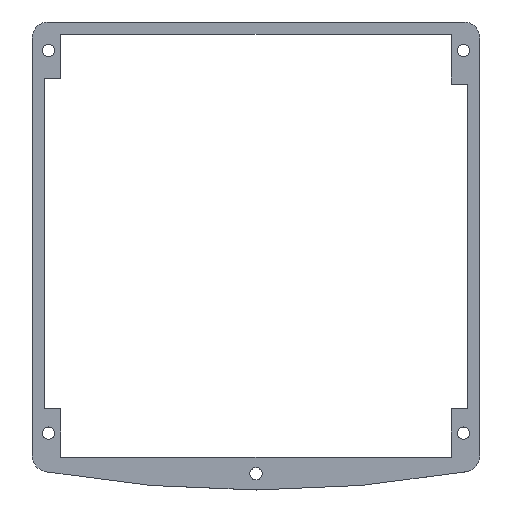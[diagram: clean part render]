
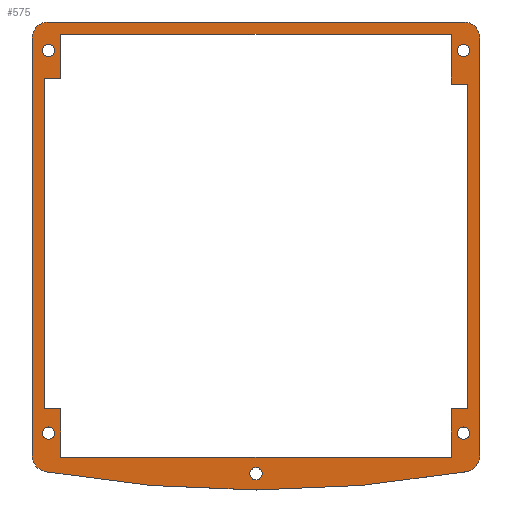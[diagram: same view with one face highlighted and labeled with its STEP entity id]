
A CAD part, top view. The second image highlights one B-rep face of the part: STEP entity #575.
In plain terms, the highlighted planar face has unit normal (0, 0, 1).
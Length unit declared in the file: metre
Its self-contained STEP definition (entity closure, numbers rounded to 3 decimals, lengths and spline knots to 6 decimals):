
#12=CIRCLE('',#602,0.004);
#14=CIRCLE('',#606,0.3);
#16=CIRCLE('',#610,0.004);
#18=CIRCLE('',#614,0.004);
#20=CIRCLE('',#618,0.004);
#23=CIRCLE('',#622,0.0015);
#25=CIRCLE('',#625,0.0015);
#27=CIRCLE('',#628,0.0015);
#29=CIRCLE('',#631,0.0015);
#31=CIRCLE('',#634,0.0015);
#167=ORIENTED_EDGE('',*,*,#267,.F.);
#168=ORIENTED_EDGE('',*,*,#265,.F.);
#169=ORIENTED_EDGE('',*,*,#263,.F.);
#170=ORIENTED_EDGE('',*,*,#261,.F.);
#171=ORIENTED_EDGE('',*,*,#259,.F.);
#172=ORIENTED_EDGE('',*,*,#228,.T.);
#173=ORIENTED_EDGE('',*,*,#232,.T.);
#174=ORIENTED_EDGE('',*,*,#235,.T.);
#175=ORIENTED_EDGE('',*,*,#238,.F.);
#176=ORIENTED_EDGE('',*,*,#241,.T.);
#177=ORIENTED_EDGE('',*,*,#244,.F.);
#178=ORIENTED_EDGE('',*,*,#247,.T.);
#179=ORIENTED_EDGE('',*,*,#250,.F.);
#180=ORIENTED_EDGE('',*,*,#253,.F.);
#181=ORIENTED_EDGE('',*,*,#256,.T.);
#182=ORIENTED_EDGE('',*,*,#194,.T.);
#183=ORIENTED_EDGE('',*,*,#198,.T.);
#184=ORIENTED_EDGE('',*,*,#201,.F.);
#185=ORIENTED_EDGE('',*,*,#204,.T.);
#186=ORIENTED_EDGE('',*,*,#207,.T.);
#187=ORIENTED_EDGE('',*,*,#210,.F.);
#188=ORIENTED_EDGE('',*,*,#213,.T.);
#189=ORIENTED_EDGE('',*,*,#216,.F.);
#190=ORIENTED_EDGE('',*,*,#219,.F.);
#191=ORIENTED_EDGE('',*,*,#222,.T.);
#192=ORIENTED_EDGE('',*,*,#225,.F.);
#193=ORIENTED_EDGE('',*,*,#268,.T.);
#194=EDGE_CURVE('',#270,#271,#324,.T.);
#198=EDGE_CURVE('',#271,#274,#328,.T.);
#201=EDGE_CURVE('',#276,#274,#331,.T.);
#204=EDGE_CURVE('',#276,#278,#334,.T.);
#207=EDGE_CURVE('',#278,#280,#337,.T.);
#210=EDGE_CURVE('',#282,#280,#340,.T.);
#213=EDGE_CURVE('',#282,#284,#343,.T.);
#216=EDGE_CURVE('',#286,#284,#346,.T.);
#219=EDGE_CURVE('',#288,#286,#349,.T.);
#222=EDGE_CURVE('',#288,#290,#352,.T.);
#225=EDGE_CURVE('',#292,#290,#355,.T.);
#228=EDGE_CURVE('',#294,#295,#358,.T.);
#232=EDGE_CURVE('',#295,#298,#12,.T.);
#235=EDGE_CURVE('',#298,#300,#363,.T.);
#238=EDGE_CURVE('',#302,#300,#14,.T.);
#241=EDGE_CURVE('',#302,#304,#367,.T.);
#244=EDGE_CURVE('',#306,#304,#16,.T.);
#247=EDGE_CURVE('',#306,#308,#371,.T.);
#250=EDGE_CURVE('',#310,#308,#18,.T.);
#253=EDGE_CURVE('',#312,#310,#375,.T.);
#256=EDGE_CURVE('',#312,#294,#20,.T.);
#259=EDGE_CURVE('',#315,#315,#23,.T.);
#261=EDGE_CURVE('',#317,#317,#25,.T.);
#263=EDGE_CURVE('',#319,#319,#27,.T.);
#265=EDGE_CURVE('',#321,#321,#29,.T.);
#267=EDGE_CURVE('',#323,#323,#31,.T.);
#268=EDGE_CURVE('',#292,#270,#378,.T.);
#270=VERTEX_POINT('',#797);
#271=VERTEX_POINT('',#798);
#274=VERTEX_POINT('',#806);
#276=VERTEX_POINT('',#812);
#278=VERTEX_POINT('',#818);
#280=VERTEX_POINT('',#824);
#282=VERTEX_POINT('',#830);
#284=VERTEX_POINT('',#836);
#286=VERTEX_POINT('',#842);
#288=VERTEX_POINT('',#848);
#290=VERTEX_POINT('',#854);
#292=VERTEX_POINT('',#860);
#294=VERTEX_POINT('',#866);
#295=VERTEX_POINT('',#867);
#298=VERTEX_POINT('',#875);
#300=VERTEX_POINT('',#881);
#302=VERTEX_POINT('',#887);
#304=VERTEX_POINT('',#893);
#306=VERTEX_POINT('',#899);
#308=VERTEX_POINT('',#905);
#310=VERTEX_POINT('',#911);
#312=VERTEX_POINT('',#917);
#315=VERTEX_POINT('',#928);
#317=VERTEX_POINT('',#933);
#319=VERTEX_POINT('',#938);
#321=VERTEX_POINT('',#943);
#323=VERTEX_POINT('',#948);
#324=LINE('',#796,#380);
#328=LINE('',#805,#384);
#331=LINE('',#811,#387);
#334=LINE('',#817,#390);
#337=LINE('',#823,#393);
#340=LINE('',#829,#396);
#343=LINE('',#835,#399);
#346=LINE('',#841,#402);
#349=LINE('',#847,#405);
#352=LINE('',#853,#408);
#355=LINE('',#859,#411);
#358=LINE('',#865,#414);
#363=LINE('',#880,#419);
#367=LINE('',#892,#423);
#371=LINE('',#904,#427);
#375=LINE('',#916,#431);
#378=LINE('',#950,#434);
#380=VECTOR('',#642,1.);
#384=VECTOR('',#648,1.);
#387=VECTOR('',#653,1.);
#390=VECTOR('',#658,1.);
#393=VECTOR('',#663,1.);
#396=VECTOR('',#668,1.);
#399=VECTOR('',#673,1.);
#402=VECTOR('',#678,1.);
#405=VECTOR('',#683,1.);
#408=VECTOR('',#688,1.);
#411=VECTOR('',#693,1.);
#414=VECTOR('',#698,1.);
#419=VECTOR('',#711,1.);
#423=VECTOR('',#723,1.);
#427=VECTOR('',#735,1.);
#431=VECTOR('',#747,1.);
#434=VECTOR('',#788,1.);
#475=EDGE_LOOP('',(#167));
#476=EDGE_LOOP('',(#168));
#477=EDGE_LOOP('',(#169));
#478=EDGE_LOOP('',(#170));
#479=EDGE_LOOP('',(#171));
#480=EDGE_LOOP('',(#172,#173,#174,#175,#176,#177,#178,#179,#180,#181));
#481=EDGE_LOOP('',(#182,#183,#184,#185,#186,#187,#188,#189,#190,#191,#192,
#193));
#521=FACE_BOUND('',#475,.T.);
#522=FACE_BOUND('',#476,.T.);
#523=FACE_BOUND('',#477,.T.);
#524=FACE_BOUND('',#478,.T.);
#525=FACE_BOUND('',#479,.T.);
#526=FACE_BOUND('',#480,.T.);
#527=FACE_BOUND('',#481,.T.);
#546=PLANE('',#637);
#575=ADVANCED_FACE('',(#521,#522,#523,#524,#525,#526,#527),#546,.T.);
#602=AXIS2_PLACEMENT_3D('',#874,#704,#705);
#606=AXIS2_PLACEMENT_3D('',#886,#716,#717);
#610=AXIS2_PLACEMENT_3D('',#898,#728,#729);
#614=AXIS2_PLACEMENT_3D('',#910,#740,#741);
#618=AXIS2_PLACEMENT_3D('',#922,#752,#753);
#622=AXIS2_PLACEMENT_3D('',#927,#760,#761);
#625=AXIS2_PLACEMENT_3D('',#932,#766,#767);
#628=AXIS2_PLACEMENT_3D('',#937,#772,#773);
#631=AXIS2_PLACEMENT_3D('',#942,#778,#779);
#634=AXIS2_PLACEMENT_3D('',#947,#784,#785);
#637=AXIS2_PLACEMENT_3D('',#953,#792,#793);
#642=DIRECTION('',(0.,1.,0.));
#648=DIRECTION('',(1.,0.,0.));
#653=DIRECTION('',(0.,1.,0.));
#658=DIRECTION('',(1.,0.,0.));
#663=DIRECTION('',(0.,-1.,0.));
#668=DIRECTION('',(1.,0.,0.));
#673=DIRECTION('',(0.,-1.,0.));
#678=DIRECTION('',(1.,0.,0.));
#683=DIRECTION('',(0.,-1.,0.));
#688=DIRECTION('',(-1.,0.,0.));
#693=DIRECTION('',(0.,-1.,0.));
#698=DIRECTION('',(0.,-1.,0.));
#704=DIRECTION('',(0.,0.,1.));
#705=DIRECTION('',(1.,0.,0.));
#711=DIRECTION('',(0.969,-0.247,0.));
#716=DIRECTION('',(0.,0.,-1.));
#717=DIRECTION('',(1.,0.,0.));
#723=DIRECTION('',(0.97,0.242,0.));
#728=DIRECTION('',(0.,0.,-1.));
#729=DIRECTION('',(1.,0.,0.));
#735=DIRECTION('',(0.,1.,0.));
#740=DIRECTION('',(0.,0.,-1.));
#741=DIRECTION('',(1.,0.,0.));
#747=DIRECTION('',(1.,0.,0.));
#752=DIRECTION('',(0.,0.,1.));
#753=DIRECTION('',(1.,0.,0.));
#760=DIRECTION('',(0.,0.,1.));
#761=DIRECTION('',(1.,0.,0.));
#766=DIRECTION('',(0.,0.,1.));
#767=DIRECTION('',(1.,0.,0.));
#772=DIRECTION('',(0.,0.,1.));
#773=DIRECTION('',(1.,0.,0.));
#778=DIRECTION('',(0.,0.,1.));
#779=DIRECTION('',(1.,0.,0.));
#784=DIRECTION('',(0.,0.,1.));
#785=DIRECTION('',(1.,0.,0.));
#788=DIRECTION('',(1.,0.,0.));
#792=DIRECTION('',(0.,0.,1.));
#793=DIRECTION('',(1.,0.,0.));
#796=CARTESIAN_POINT('',(-0.048,0.1045,0.));
#797=CARTESIAN_POINT('',(-0.048,0.101,0.));
#798=CARTESIAN_POINT('',(-0.048,0.112,0.));
#805=CARTESIAN_POINT('',(-0.044,0.112,0.));
#806=CARTESIAN_POINT('',(0.048,0.112,0.));
#811=CARTESIAN_POINT('',(0.048,0.109367,0.));
#812=CARTESIAN_POINT('',(0.048,0.099734,0.));
#817=CARTESIAN_POINT('',(0.05,0.099734,0.));
#818=CARTESIAN_POINT('',(0.052,0.099734,0.));
#823=CARTESIAN_POINT('',(0.052,0.059867,0.));
#824=CARTESIAN_POINT('',(0.052,0.02,0.));
#829=CARTESIAN_POINT('',(0.05,0.02,0.));
#830=CARTESIAN_POINT('',(0.048,0.02,0.));
#835=CARTESIAN_POINT('',(0.048,0.014,0.));
#836=CARTESIAN_POINT('',(0.048,0.008,0.));
#841=CARTESIAN_POINT('',(0.,0.008,0.));
#842=CARTESIAN_POINT('',(-0.048,0.008,0.));
#847=CARTESIAN_POINT('',(-0.048,0.014,0.));
#848=CARTESIAN_POINT('',(-0.048,0.02,0.));
#853=CARTESIAN_POINT('',(-0.05,0.02,0.));
#854=CARTESIAN_POINT('',(-0.052,0.02,0.));
#859=CARTESIAN_POINT('',(-0.052,0.0605,0.));
#860=CARTESIAN_POINT('',(-0.052,0.101,0.));
#865=CARTESIAN_POINT('',(-0.055,0.059717,0.));
#866=CARTESIAN_POINT('',(-0.055,0.111,0.));
#867=CARTESIAN_POINT('',(-0.055,0.008435,0.));
#874=CARTESIAN_POINT('',(-0.051,0.008435,0.));
#875=CARTESIAN_POINT('',(-0.051735,0.004503,0.));
#880=CARTESIAN_POINT('',(-0.051683,0.00449,0.));
#881=CARTESIAN_POINT('',(-0.051631,0.004476,0.));
#886=CARTESIAN_POINT('',(0.,0.3,0.));
#887=CARTESIAN_POINT('',(0.051695,0.004488,0.));
#892=CARTESIAN_POINT('',(0.051772,0.004507,0.));
#893=CARTESIAN_POINT('',(0.05185,0.004526,0.));
#898=CARTESIAN_POINT('',(0.051,0.008435,0.));
#899=CARTESIAN_POINT('',(0.055,0.008435,0.));
#904=CARTESIAN_POINT('',(0.055,0.059717,0.));
#905=CARTESIAN_POINT('',(0.055,0.111,0.));
#910=CARTESIAN_POINT('',(0.051,0.111,0.));
#911=CARTESIAN_POINT('',(0.051,0.115,0.));
#916=CARTESIAN_POINT('',(0.,0.115,0.));
#917=CARTESIAN_POINT('',(-0.051,0.115,0.));
#922=CARTESIAN_POINT('',(-0.051,0.111,0.));
#927=CARTESIAN_POINT('',(0.,0.004,0.));
#928=CARTESIAN_POINT('',(0.0015,0.004,0.));
#932=CARTESIAN_POINT('',(0.051,0.01398,0.));
#933=CARTESIAN_POINT('',(0.0525,0.01398,0.));
#937=CARTESIAN_POINT('',(-0.051,0.01398,0.));
#938=CARTESIAN_POINT('',(-0.0495,0.01398,0.));
#942=CARTESIAN_POINT('',(-0.051,0.10798,0.));
#943=CARTESIAN_POINT('',(-0.0495,0.10798,0.));
#947=CARTESIAN_POINT('',(0.051,0.10798,0.));
#948=CARTESIAN_POINT('',(0.0525,0.10798,0.));
#950=CARTESIAN_POINT('',(-0.05,0.101,0.));
#953=CARTESIAN_POINT('',(0.,0.15,0.));
